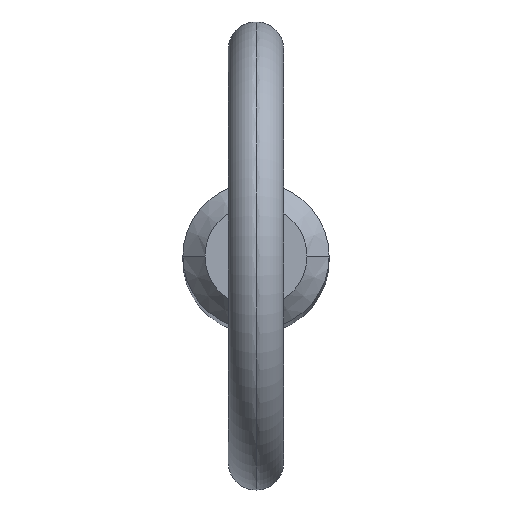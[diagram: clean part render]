
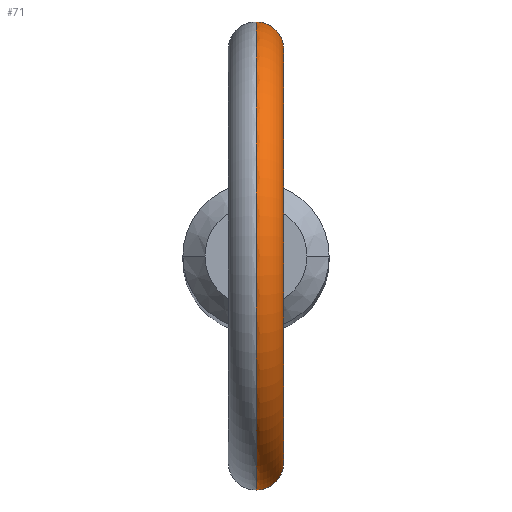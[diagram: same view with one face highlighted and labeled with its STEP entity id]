
A CAD part, top view. The second image highlights one B-rep face of the part: STEP entity #71.
In plain terms, the highlighted toroidal (fillet/blend) face has major radius 11.2 mm and minor radius 1.5 mm.
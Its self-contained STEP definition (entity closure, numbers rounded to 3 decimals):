
#2 = CARTESIAN_POINT ( 'NONE',  ( 0.206, 3.965, 118.147 ) ) ;
#6 = CARTESIAN_POINT ( 'NONE',  ( 0., 3.965, 114.935 ) ) ;
#13 = VERTEX_POINT ( 'NONE', #208 ) ;
#17 = CARTESIAN_POINT ( 'NONE',  ( 1.026, 3.831, 115.313 ) ) ;
#26 = CARTESIAN_POINT ( 'NONE',  ( 0., -3.965, 114.935 ) ) ;
#32 = EDGE_CURVE ( 'NONE', #72, #262, #278, .T. ) ;
#41 = CARTESIAN_POINT ( 'NONE',  ( 0.205, -3.965, 114.935 ) ) ;
#46 = AXIS2_PLACEMENT_3D ( 'NONE', #338, #248, #168 ) ;
#49 = AXIS2_PLACEMENT_3D ( 'NONE', #386, #314, #349 ) ;
#60 = CARTESIAN_POINT ( 'NONE',  ( 1.344, 3.731, 115.703 ) ) ;
#67 = CARTESIAN_POINT ( 'NONE',  ( 0., -3.965, 118.147 ) ) ;
#71 = ADVANCED_FACE ( 'NONE', ( #127 ), #446, .T. ) ;
#72 = VERTEX_POINT ( 'NONE', #135 ) ;
#73 = B_SPLINE_CURVE_WITH_KNOTS ( 'NONE', 3,
 ( #318, #353, #438, #114, #472, #148, #152, #190, #228, #156, #380, #74, #275, #510, #147, #154, #118, #391, #78, #186, #424, #194, #320, #435, #41, #308 ),
 .UNSPECIFIED., .F., .F.,
 ( 4, 2, 2, 2, 2, 2, 2, 2, 2, 2, 2, 2, 4 ),
 ( 0.004, 0.005, 0.005, 0.005, 0.006, 0.006, 0.007, 0.007, 0.007, 0.008, 0.008, 0.008, 0.009 ),
 .UNSPECIFIED. ) ;
#74 = CARTESIAN_POINT ( 'NONE',  ( 1.479, -3.679, 116.707 ) ) ;
#78 = CARTESIAN_POINT ( 'NONE',  ( 1.237, -3.77, 115.531 ) ) ;
#82 = CIRCLE ( 'NONE', #49, 9.7 ) ;
#85 = CARTESIAN_POINT ( 'NONE',  ( 0.204, 3.965, 114.935 ) ) ;
#114 = CARTESIAN_POINT ( 'NONE',  ( 0.404, -3.946, 118.082 ) ) ;
#118 = CARTESIAN_POINT ( 'NONE',  ( 1.447, -3.692, 115.993 ) ) ;
#127 = FACE_OUTER_BOUND ( 'NONE', #502, .T. ) ;
#134 = CARTESIAN_POINT ( 'NONE',  ( 0.949, 3.851, 115.249 ) ) ;
#135 = CARTESIAN_POINT ( 'NONE',  ( 0., 3.965, 114.935 ) ) ;
#147 = CARTESIAN_POINT ( 'NONE',  ( 1.499, -3.671, 116.297 ) ) ;
#148 = CARTESIAN_POINT ( 'NONE',  ( 0.77, -3.894, 117.9 ) ) ;
#150 = CARTESIAN_POINT ( 'NONE',  ( 0.411, 3.948, 118.091 ) ) ;
#152 = CARTESIAN_POINT ( 'NONE',  ( 0.925, -3.858, 117.768 ) ) ;
#154 = CARTESIAN_POINT ( 'NONE',  ( 1.471, -3.682, 116.094 ) ) ;
#156 = CARTESIAN_POINT ( 'NONE',  ( 1.404, -3.708, 117.001 ) ) ;
#168 = DIRECTION ( 'NONE',  ( 0., 0., -1. ) ) ;
#169 = CARTESIAN_POINT ( 'NONE',  ( 1.447, 3.692, 115.993 ) ) ;
#170 = DIRECTION ( 'NONE',  ( 0., 0., -1. ) ) ;
#178 = CARTESIAN_POINT ( 'NONE',  ( 0.927, 3.858, 117.767 ) ) ;
#186 = CARTESIAN_POINT ( 'NONE',  ( 1.028, -3.83, 115.315 ) ) ;
#190 = CARTESIAN_POINT ( 'NONE',  ( 1.186, -3.786, 117.459 ) ) ;
#194 = CARTESIAN_POINT ( 'NONE',  ( 0.782, -3.888, 115.137 ) ) ;
#208 = CARTESIAN_POINT ( 'NONE',  ( 0., 3.965, 118.147 ) ) ;
#209 = CARTESIAN_POINT ( 'NONE',  ( 1.488, 3.675, 116.705 ) ) ;
#223 = B_SPLINE_CURVE_WITH_KNOTS ( 'NONE', 3,
 ( #6, #85, #370, #407, #251, #134, #17, #298, #60, #169, #299, #254, #454, #209, #491, #256, #413, #178, #508, #150, #2, #312 ),
 .UNSPECIFIED., .F., .F.,
 ( 4, 2, 2, 2, 2, 2, 2, 2, 2, 2, 4 ),
 ( 0.001, 0.001, 0.002, 0.002, 0.003, 0.003, 0.003, 0.004, 0.004, 0.005, 0.006 ),
 .UNSPECIFIED. ) ;
#228 = CARTESIAN_POINT ( 'NONE',  ( 1.291, -3.75, 117.283 ) ) ;
#232 = AXIS2_PLACEMENT_3D ( 'NONE', #409, #255, #170 ) ;
#248 = DIRECTION ( 'NONE',  ( 1., 0., 0. ) ) ;
#251 = CARTESIAN_POINT ( 'NONE',  ( 0.782, 3.888, 115.137 ) ) ;
#254 = CARTESIAN_POINT ( 'NONE',  ( 1.499, 3.671, 116.294 ) ) ;
#255 = DIRECTION ( 'NONE',  ( 1., 0., 0. ) ) ;
#256 = CARTESIAN_POINT ( 'NONE',  ( 1.291, 3.75, 117.284 ) ) ;
#262 = VERTEX_POINT ( 'NONE', #26 ) ;
#275 = CARTESIAN_POINT ( 'NONE',  ( 1.493, -3.673, 116.604 ) ) ;
#278 = CIRCLE ( 'NONE', #46, 12.7 ) ;
#281 = VERTEX_POINT ( 'NONE', #67 ) ;
#284 = EDGE_CURVE ( 'NONE', #281, #262, #73, .T. ) ;
#289 = ORIENTED_EDGE ( 'NONE', *, *, #417, .F. ) ;
#298 = CARTESIAN_POINT ( 'NONE',  ( 1.236, 3.77, 115.529 ) ) ;
#299 = CARTESIAN_POINT ( 'NONE',  ( 1.47, 3.682, 116.092 ) ) ;
#308 = CARTESIAN_POINT ( 'NONE',  ( 0., -3.965, 114.935 ) ) ;
#312 = CARTESIAN_POINT ( 'NONE',  ( 0., 3.965, 118.147 ) ) ;
#314 = DIRECTION ( 'NONE',  ( 1., 0., 0. ) ) ;
#318 = CARTESIAN_POINT ( 'NONE',  ( 0., -3.965, 118.147 ) ) ;
#320 = CARTESIAN_POINT ( 'NONE',  ( 0.693, -3.905, 115.09 ) ) ;
#338 = CARTESIAN_POINT ( 'NONE',  ( 0., 0., 127. ) ) ;
#349 = DIRECTION ( 'NONE',  ( 0., 0., -1. ) ) ;
#353 = CARTESIAN_POINT ( 'NONE',  ( 0.102, -3.965, 118.147 ) ) ;
#370 = CARTESIAN_POINT ( 'NONE',  ( 0.41, 3.948, 114.974 ) ) ;
#377 = ORIENTED_EDGE ( 'NONE', *, *, #32, .T. ) ;
#380 = CARTESIAN_POINT ( 'NONE',  ( 1.434, -3.697, 116.905 ) ) ;
#386 = CARTESIAN_POINT ( 'NONE',  ( 0., 0., 127. ) ) ;
#391 = CARTESIAN_POINT ( 'NONE',  ( 1.346, -3.73, 115.708 ) ) ;
#405 = ORIENTED_EDGE ( 'NONE', *, *, #447, .F. ) ;
#407 = CARTESIAN_POINT ( 'NONE',  ( 0.691, 3.905, 115.089 ) ) ;
#409 = CARTESIAN_POINT ( 'NONE',  ( 0., 0., 127. ) ) ;
#413 = CARTESIAN_POINT ( 'NONE',  ( 1.185, 3.786, 117.46 ) ) ;
#417 = EDGE_CURVE ( 'NONE', #72, #13, #223, .T. ) ;
#424 = CARTESIAN_POINT ( 'NONE',  ( 0.949, -3.851, 115.249 ) ) ;
#435 = CARTESIAN_POINT ( 'NONE',  ( 0.409, -3.948, 114.974 ) ) ;
#438 = CARTESIAN_POINT ( 'NONE',  ( 0.205, -3.961, 118.134 ) ) ;
#446 = TOROIDAL_SURFACE ( 'NONE', #232, 11.2, 1.5 ) ;
#447 = EDGE_CURVE ( 'NONE', #13, #281, #82, .T. ) ;
#454 = CARTESIAN_POINT ( 'NONE',  ( 1.503, 3.669, 116.398 ) ) ;
#472 = CARTESIAN_POINT ( 'NONE',  ( 0.498, -3.935, 118.044 ) ) ;
#488 = ORIENTED_EDGE ( 'NONE', *, *, #284, .F. ) ;
#491 = CARTESIAN_POINT ( 'NONE',  ( 1.441, 3.695, 116.908 ) ) ;
#502 = EDGE_LOOP ( 'NONE', ( #289, #377, #488, #405 ) ) ;
#508 = CARTESIAN_POINT ( 'NONE',  ( 0.769, 3.894, 117.901 ) ) ;
#510 = CARTESIAN_POINT ( 'NONE',  ( 1.503, -3.669, 116.399 ) ) ;
